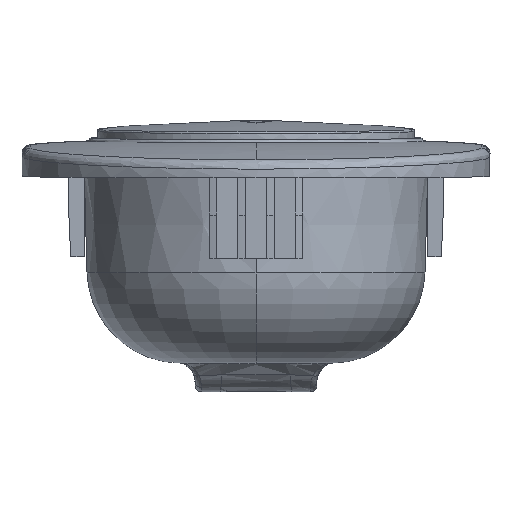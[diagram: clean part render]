
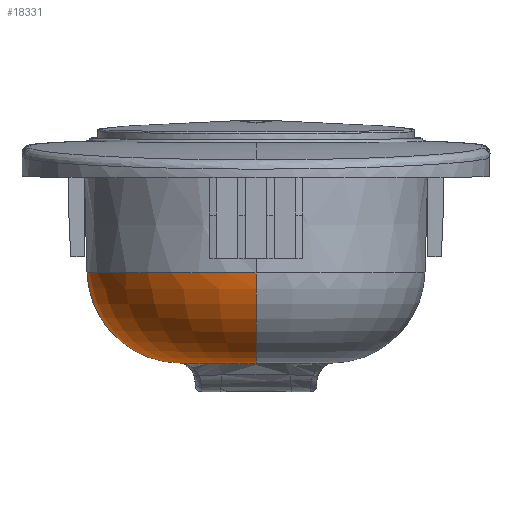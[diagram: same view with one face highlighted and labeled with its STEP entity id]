
A CAD part, front view. The second image highlights one B-rep face of the part: STEP entity #18331.
In plain terms, the highlighted toroidal (fillet/blend) face has major radius 12.102 mm and minor radius 15 mm.
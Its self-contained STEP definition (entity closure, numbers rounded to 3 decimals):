
#701 = CARTESIAN_POINT ( 'NONE',  ( -12.102, -7.76, -37.509 ) ) ;
#705 = CARTESIAN_POINT ( 'NONE',  ( -12.102, -9.344, -37.519 ) ) ;
#706 = CARTESIAN_POINT ( 'NONE',  ( -11.787, -10.928, -37.529 ) ) ;
#707 = CARTESIAN_POINT ( 'NONE',  ( -10.575, -13.855, -37.547 ) ) ;
#708 = CARTESIAN_POINT ( 'NONE',  ( -9.678, -15.197, -37.555 ) ) ;
#709 = CARTESIAN_POINT ( 'NONE',  ( -7.437, -17.438, -37.568 ) ) ;
#710 = CARTESIAN_POINT ( 'NONE',  ( -6.095, -18.335, -37.574 ) ) ;
#711 = CARTESIAN_POINT ( 'NONE',  ( -3.168, -19.547, -37.581 ) ) ;
#712 = CARTESIAN_POINT ( 'NONE',  ( -1.584, -19.862, -37.583 ) ) ;
#713 = CARTESIAN_POINT ( 'NONE',  ( 0., -19.862, -37.583 ) ) ;
#750 = CARTESIAN_POINT ( 'NONE',  ( 0., -19.953, -22.583 ) ) ;
#751 = DIRECTION ( 'NONE',  ( -1., 0., 0. ) ) ;
#752 = DIRECTION ( 'NONE',  ( 0., 0., 1. ) ) ;
#1134 = EDGE_CURVE ( 'NONE', #2266, #2267, #10043, .T. ) ;
#1837 = CARTESIAN_POINT ( 'NONE',  ( -27.097, -7.849, -22.902 ) ) ;
#1838 = CARTESIAN_POINT ( 'NONE',  ( 0., -34.946, -23.067 ) ) ;
#1878 = CARTESIAN_POINT ( 'NONE',  ( -12.102, -7.76, -37.509 ) ) ;
#1879 = CARTESIAN_POINT ( 'NONE',  ( 0., -19.862, -37.583 ) ) ;
#2266 = VERTEX_POINT ( 'NONE', #1837 ) ;
#2267 = VERTEX_POINT ( 'NONE', #1838 ) ;
#2307 = VERTEX_POINT ( 'NONE', #1878 ) ;
#2309 = VERTEX_POINT ( 'NONE', #1879 ) ;
#10043 = CIRCLE ( 'NONE', #17173, 27.097 ) ;
#12040 = DIRECTION ( 'NONE',  ( -1., 0., 0. ) ) ;
#12041 = DIRECTION ( 'NONE',  ( 0., -0.006, 1. ) ) ;
#12044 = CARTESIAN_POINT ( 'NONE',  ( 0., -7.849, -22.902 ) ) ;
#12408 = ORIENTED_EDGE ( 'NONE', *, *, #16325, .T. ) ;
#12445 = ORIENTED_EDGE ( 'NONE', *, *, #16318, .T. ) ;
#12485 = ORIENTED_EDGE ( 'NONE', *, *, #1134, .F. ) ;
#12506 = ORIENTED_EDGE ( 'NONE', *, *, #17171, .F. ) ;
#14898 = CIRCLE ( 'NONE', #17387, 15. ) ;
#14928 = FACE_OUTER_BOUND ( 'NONE', #18099, .T. ) ;
#14932 = TOROIDAL_SURFACE ( 'NONE', #17392, 12.102, 15. ) ;
#16318 = EDGE_CURVE ( 'NONE', #2307, #2309, #16738, .T. ) ;
#16325 = EDGE_CURVE ( 'NONE', #2309, #2267, #17042, .T. ) ;
#16738 = B_SPLINE_CURVE_WITH_KNOTS ( 'NONE', 3,
 ( #701, #705, #706, #707, #708, #709, #710, #711, #712, #713 ),
 .UNSPECIFIED., .F., .F.,
 ( 4, 2, 2, 2, 4 ),
 ( 0., 0.125, 0.25, 0.375, 0.5 ),
 .UNSPECIFIED. ) ;
#17042 = CIRCLE ( 'NONE', #17277, 15. ) ;
#17171 = EDGE_CURVE ( 'NONE', #2307, #2266, #14898, .T. ) ;
#17173 = AXIS2_PLACEMENT_3D ( 'NONE', #12044, #12041, #12040 ) ;
#17277 = AXIS2_PLACEMENT_3D ( 'NONE', #750, #751, #752 ) ;
#17387 = AXIS2_PLACEMENT_3D ( 'NONE', #19566, #19571, #19572 ) ;
#17392 = AXIS2_PLACEMENT_3D ( 'NONE', #20024, #19987, #20029 ) ;
#18099 = EDGE_LOOP ( 'NONE', ( #12445, #12408, #12485, #12506 ) ) ;
#18331 = ADVANCED_FACE ( 'NONE', ( #14928 ), #14932, .T. ) ;
#19566 = CARTESIAN_POINT ( 'NONE',  ( -12.102, -7.851, -22.51 ) ) ;
#19571 = DIRECTION ( 'NONE',  ( 0., 1., 0.006 ) ) ;
#19572 = DIRECTION ( 'NONE',  ( 0., 0.006, -1. ) ) ;
#19987 = DIRECTION ( 'NONE',  ( 0., -0.006, 1. ) ) ;
#20024 = CARTESIAN_POINT ( 'NONE',  ( 0., -7.851, -22.51 ) ) ;
#20029 = DIRECTION ( 'NONE',  ( 0., -1., -0.006 ) ) ;
